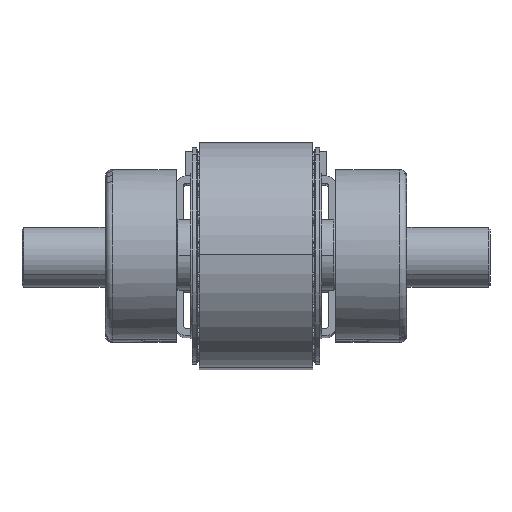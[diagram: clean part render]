
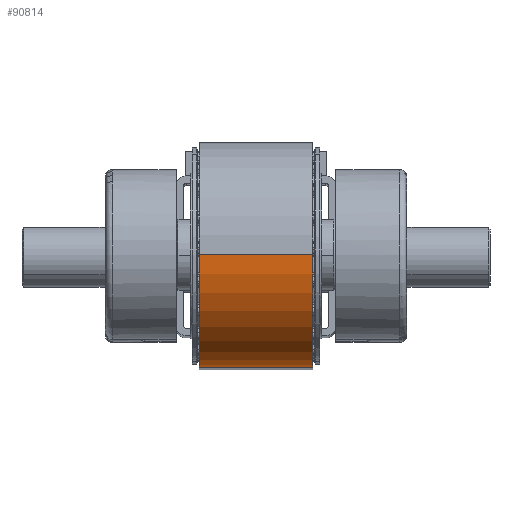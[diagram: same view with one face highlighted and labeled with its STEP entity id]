
A CAD part, top view. The second image highlights one B-rep face of the part: STEP entity #90814.
In plain terms, the highlighted cylindrical face has radius 31.75 mm (diameter 63.5 mm), a partial arc.
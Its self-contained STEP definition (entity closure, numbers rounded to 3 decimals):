
#2727 = ORIENTED_EDGE ( 'NONE', *, *, #10663, .T. ) ;
#6818 = VECTOR ( 'NONE', #61165, 1000. ) ;
#9519 = CARTESIAN_POINT ( 'NONE',  ( -2.555, -31.75, -16. ) ) ;
#10663 = EDGE_CURVE ( 'NONE', #45059, #56340, #25614, .T. ) ;
#13124 = EDGE_LOOP ( 'NONE', ( #99278, #2727, #27602, #53510 ) ) ;
#13357 = CYLINDRICAL_SURFACE ( 'NONE', #17089, 31.75 ) ;
#17089 = AXIS2_PLACEMENT_3D ( 'NONE', #46732, #77946, #21091 ) ;
#17215 = AXIS2_PLACEMENT_3D ( 'NONE', #97988, #44924, #58922 ) ;
#21091 = DIRECTION ( 'NONE',  ( -1., 0., 0. ) ) ;
#25614 = LINE ( 'NONE', #64543, #55015 ) ;
#26119 = DIRECTION ( 'NONE',  ( 0., 0., -1. ) ) ;
#27602 = ORIENTED_EDGE ( 'NONE', *, *, #81427, .F. ) ;
#29378 = LINE ( 'NONE', #61665, #6818 ) ;
#34676 = VERTEX_POINT ( 'NONE', #84346 ) ;
#34912 = AXIS2_PLACEMENT_3D ( 'NONE', #61568, #38413, #69773 ) ;
#38413 = DIRECTION ( 'NONE',  ( 0., 0., -1. ) ) ;
#40115 = CIRCLE ( 'NONE', #17215, 31.75 ) ;
#41281 = CARTESIAN_POINT ( 'NONE',  ( -34.305, 0., -16. ) ) ;
#44924 = DIRECTION ( 'NONE',  ( 0., 0., -1. ) ) ;
#45059 = VERTEX_POINT ( 'NONE', #88837 ) ;
#46732 = CARTESIAN_POINT ( 'NONE',  ( -2.555, 0., 0. ) ) ;
#48082 = CIRCLE ( 'NONE', #34912, 31.75 ) ;
#49701 = EDGE_CURVE ( 'NONE', #80003, #34676, #29378, .T. ) ;
#53510 = ORIENTED_EDGE ( 'NONE', *, *, #49701, .T. ) ;
#55015 = VECTOR ( 'NONE', #26119, 1000. ) ;
#56340 = VERTEX_POINT ( 'NONE', #41281 ) ;
#58922 = DIRECTION ( 'NONE',  ( 0., -1., 0. ) ) ;
#61165 = DIRECTION ( 'NONE',  ( 0., 0., 1. ) ) ;
#61568 = CARTESIAN_POINT ( 'NONE',  ( -2.555, 0., -16. ) ) ;
#61665 = CARTESIAN_POINT ( 'NONE',  ( -2.555, -31.75, 16. ) ) ;
#62080 = FACE_OUTER_BOUND ( 'NONE', #13124, .T. ) ;
#64543 = CARTESIAN_POINT ( 'NONE',  ( -34.305, 0., 0. ) ) ;
#68721 = EDGE_CURVE ( 'NONE', #34676, #45059, #40115, .T. ) ;
#69773 = DIRECTION ( 'NONE',  ( 0., -1., 0. ) ) ;
#77946 = DIRECTION ( 'NONE',  ( 0., 0., -1. ) ) ;
#80003 = VERTEX_POINT ( 'NONE', #9519 ) ;
#81427 = EDGE_CURVE ( 'NONE', #80003, #56340, #48082, .T. ) ;
#84346 = CARTESIAN_POINT ( 'NONE',  ( -2.555, -31.75, 16. ) ) ;
#88837 = CARTESIAN_POINT ( 'NONE',  ( -34.305, 0., 16. ) ) ;
#90814 = ADVANCED_FACE ( 'NONE', ( #62080 ), #13357, .T. ) ;
#97988 = CARTESIAN_POINT ( 'NONE',  ( -2.555, 0., 16. ) ) ;
#99278 = ORIENTED_EDGE ( 'NONE', *, *, #68721, .T. ) ;
